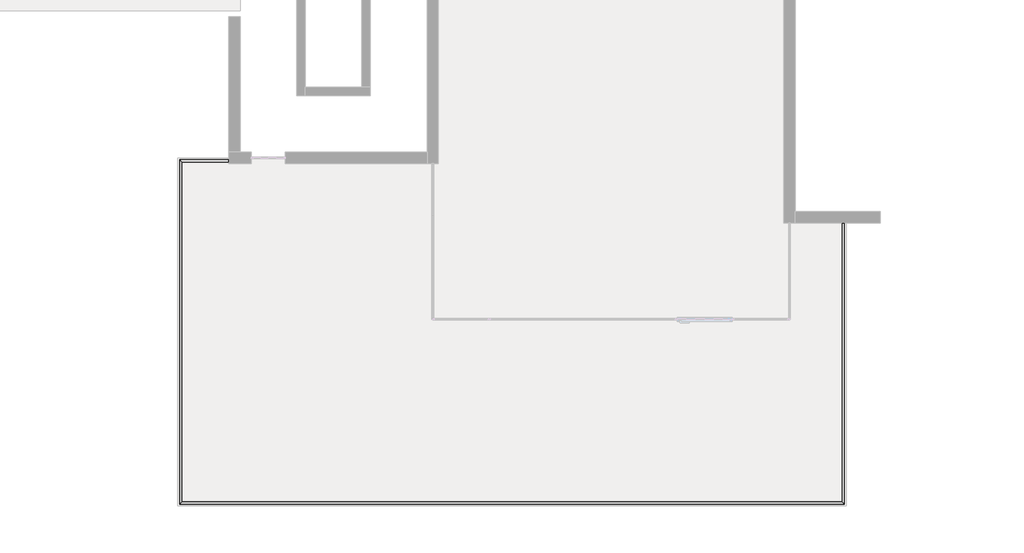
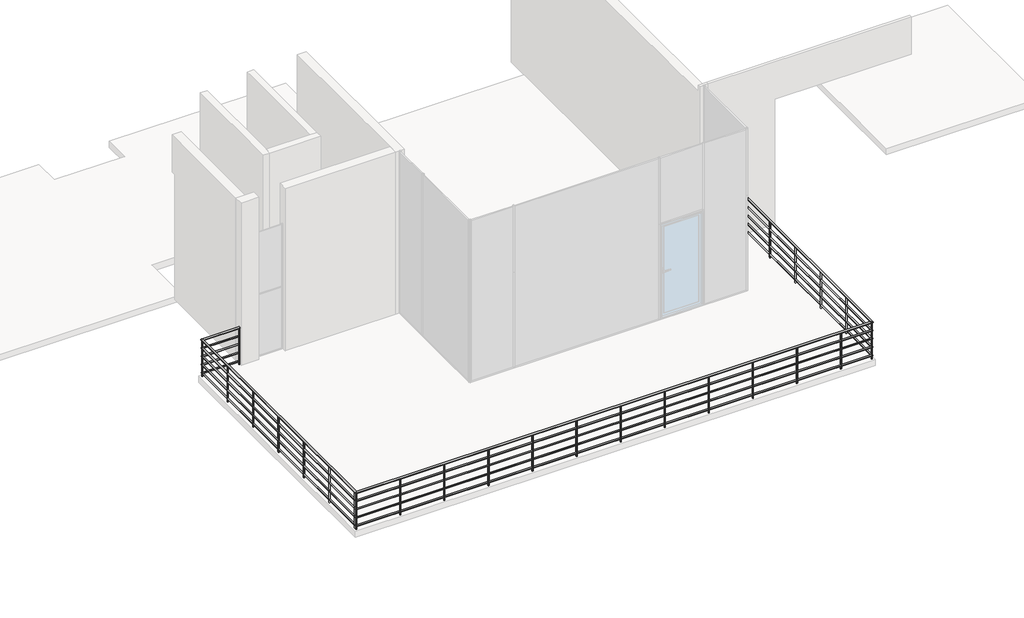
# One storey, part 3 of 4: 1 railing.
"""IFC4 building model written with IfcOpenShell, lengths in millimetres."""

import ifcopenshell
import ifcopenshell.guid

model = None  # the IFC model being written
_history = None  # IfcOwnerHistory: only IFC2X3 demands one
_inside = {}  # id of a spatial element -> (the spatial element, [elements in it])
_under = {}  # id of a project, library or spatial element -> (it, [spatial elements below it])
_declared = {}  # id of a project -> (the project, [libraries it declares])
_typed = {}  # id of a type object -> (the type object, [elements of that type])
_made_of = {}  # id of a material, layer set ... -> (it, [elements and type objects made of it])


def new_model(schema):
    """Start an empty IFC model of exactly this schema.

    Asked for "IFC4X3", IfcOpenShell would pick the latest addendum, in which some entities
    have other attributes; the version numbers below select the first issue.
    IFC2X3 requires an IfcOwnerHistory on every rooted entity: one is made here for all.
    """
    global model, _history
    if schema == "IFC4X3":
        model = ifcopenshell.file(schema_version=(4, 3, 0, 0))
    else:
        model = ifcopenshell.file(schema=schema)
    _inside.clear()
    _under.clear()
    _declared.clear()
    _typed.clear()
    _made_of.clear()
    _history = None
    if model.schema == "IFC2X3":
        org = make("IfcOrganization", Name="unknown")
        user = make(
            "IfcPersonAndOrganization",
            ThePerson=make("IfcPerson", FamilyName="unknown"),
            TheOrganization=org,
        )
        app = make(
            "IfcApplication",
            ApplicationDeveloper=org,
            Version="unknown",
            ApplicationFullName="unknown",
            ApplicationIdentifier="unknown",
        )
        _history = make(
            "IfcOwnerHistory",
            OwningUser=user,
            OwningApplication=app,
            ChangeAction="ADDED",
            CreationDate=0,
        )
    return model


def make(cls, **values):
    """One entity of the class cls with the attributes given. An attribute that is None is left unset."""
    return model.create_entity(
        cls, **{name: value for name, value in values.items() if value is not None}
    )


def rooted(cls, **values):
    """An entity with a GlobalId (a new one), such as an element, a storey or a relation."""
    return make(cls, GlobalId=ifcopenshell.guid.new(), OwnerHistory=_history, **values)


def si_unit(unit_type, name, prefix=None):
    """IfcSIUnit, for example si_unit("LENGTHUNIT", "METRE", prefix="MILLI")."""
    return make("IfcSIUnit", UnitType=unit_type, Prefix=prefix, Name=name)


def assignment(units):
    """IfcUnitAssignment: the units of a project."""
    return None if units is None else make("IfcUnitAssignment", Units=units)


def point(xyz):
    """IfcCartesianPoint."""
    return None if xyz is None else make("IfcCartesianPoint", Coordinates=xyz)


def direction(xyz):
    """IfcDirection."""
    return None if xyz is None else make("IfcDirection", DirectionRatios=xyz)


def frame(location, z_axis=None, x_axis=None):
    """IfcAxis2Placement3D, a coordinate frame: its origin and axes. An axis left out is left unset."""
    return make(
        "IfcAxis2Placement3D",
        Location=point(location),
        Axis=direction(z_axis),
        RefDirection=direction(x_axis),
    )


def frame_2d(location, x_axis=None):
    """IfcAxis2Placement2D, a coordinate frame in the plane: its origin and x axis."""
    return make(
        "IfcAxis2Placement2D", Location=point(location), RefDirection=direction(x_axis)
    )


def origin():
    """The frame at (0, 0, 0) with its axes left unset."""
    return frame((0.0, 0.0, 0.0))


def origin_with_axes():
    """The frame at (0, 0, 0) with the z axis (0, 0, 1) and the x axis (1, 0, 0) written out."""
    return frame((0.0, 0.0, 0.0), z_axis=(0.0, 0.0, 1.0), x_axis=(1.0, 0.0, 0.0))


def place(relative_to, where):
    """IfcLocalPlacement: puts the frame where relative to a parent placement (None: the world)."""
    return make(
        "IfcLocalPlacement", PlacementRelTo=relative_to, RelativePlacement=where
    )


def context(
    kind, dimensions, precision=None, world=None, true_north=None, identifier=None
):
    """IfcGeometricRepresentationContext, for example the 3D "Model" context."""
    return make(
        "IfcGeometricRepresentationContext",
        ContextIdentifier=identifier,
        ContextType=kind,
        CoordinateSpaceDimension=dimensions,
        Precision=precision,
        WorldCoordinateSystem=world,
        TrueNorth=true_north,
    )


def project(units=None, contexts=None):
    """IfcProject with its units and contexts."""
    return rooted(
        "IfcProject",
        Name="project",
        RepresentationContexts=contexts,
        UnitsInContext=assignment(units),
    )


def spatial(cls, under=None, at=None, **own):
    """A site, building, storey or space (cls), placed at a placement, below another one or the project."""
    s = rooted(cls, ObjectPlacement=at, **own)
    if under is not None:
        _under.setdefault(under.id(), (under, []))[1].append(s)
    return s


def circle_curve(where, radius):
    """IfcCircle in the frame where."""
    return make("IfcCircle", Position=where, Radius=radius)


def ellipse_curve(where, semi_axis1, semi_axis2):
    """IfcEllipse in the frame where."""
    return make(
        "IfcEllipse", Position=where, SemiAxis1=semi_axis1, SemiAxis2=semi_axis2
    )


def trimmed(basis, trim1, trim2, sense, master):
    """IfcTrimmedCurve: the piece of a basis curve between two trims."""
    return make(
        "IfcTrimmedCurve",
        BasisCurve=basis,
        Trim1=trim1,
        Trim2=trim2,
        SenseAgreement=sense,
        MasterRepresentation=master,
    )


def segment(curve, same_sense, transition):
    """IfcCompositeCurveSegment."""
    return make(
        "IfcCompositeCurveSegment",
        Transition=transition,
        SameSense=same_sense,
        ParentCurve=curve,
    )


def composite_curve(segments, self_intersect=None):
    """IfcCompositeCurve: segments joined end to end."""
    return make("IfcCompositeCurve", Segments=segments, SelfIntersect=self_intersect)


def outline(outer, holes=None, kind="AREA"):
    """IfcArbitraryClosedProfileDef: a profile drawn as a closed curve; with holes, ...WithVoids."""
    if holes is None:
        return make("IfcArbitraryClosedProfileDef", ProfileType=kind, OuterCurve=outer)
    return make(
        "IfcArbitraryProfileDefWithVoids",
        ProfileType=kind,
        OuterCurve=outer,
        InnerCurves=holes,
    )


def extrude(swept, where, along, depth):
    """IfcExtrudedAreaSolid: the profile swept, set in the frame where, extruded along a direction by depth."""
    return make(
        "IfcExtrudedAreaSolid",
        SweptArea=swept,
        Position=where,
        ExtrudedDirection=direction(along),
        Depth=depth,
    )


def shape(context_of_items, identifier, shape_type, items):
    """IfcShapeRepresentation: the items that make up one representation, for example the "Body"."""
    return make(
        "IfcShapeRepresentation",
        ContextOfItems=context_of_items,
        RepresentationIdentifier=identifier,
        RepresentationType=shape_type,
        Items=items,
    )


def made_of(thing, what):
    """Note that an element or type object is made of a material, layer set ...; save() writes the relation."""
    if what is not None:
        _made_of.setdefault(what.id(), (what, []))[1].append(thing)
    return thing


def element(
    cls,
    number,
    at=None,
    inside=None,
    cuts=None,
    type_object=None,
    material=None,
    context=None,
    identifier="Body",
    shape_type=None,
    held_by="IfcProductDefinitionShape",
    body=None,
    shapes=None,
    **own,
):
    """One element of the class cls, such as IfcWall. Its Tag is "e" and its number.

    at: its placement. inside: the storey or other place that contains it. cuts: it is an
    opening in that element (IfcRelVoidsElement). A single representation is given by context,
    identifier, shape_type and body (its items); several are given by shapes. held_by: the class
    of the entity that holds the representations. save() writes the other relations.
    """
    e = rooted(cls, Tag="e%d" % number, ObjectPlacement=at, **own)
    if body is not None:
        shapes = [shape(context, identifier, shape_type, body)]
    if shapes is not None:
        e.Representation = make(held_by, Representations=shapes)
    if inside is not None:
        _inside.setdefault(inside.id(), (inside, []))[1].append(e)
    if cuts is not None:
        rooted(
            "IfcRelVoidsElement", RelatingBuildingElement=cuts, RelatedOpeningElement=e
        )
    if type_object is not None:
        _typed.setdefault(type_object.id(), (type_object, []))[1].append(e)
    return made_of(e, material)


def aggregate(whole, parts):
    """IfcRelAggregates: a whole, such as a stair, and the parts it consists of."""
    return rooted("IfcRelAggregates", RelatingObject=whole, RelatedObjects=parts)


def save(model, path):
    """Write the relations noted so far, then the file.

    IfcRelAggregates (storeys below a building ...), IfcRelContainedInSpatialStructure (elements
    in a storey), IfcRelDefinesByType, IfcRelAssociatesMaterial and IfcRelDeclares: one each for
    every whole, place, type object, material and project.
    """
    for whole, parts in _under.values():
        aggregate(whole, parts)
    for where, things in _inside.values():
        rooted(
            "IfcRelContainedInSpatialStructure",
            RelatedElements=things,
            RelatingStructure=where,
        )
    for kind, things in _typed.values():
        rooted("IfcRelDefinesByType", RelatedObjects=things, RelatingType=kind)
    for what, things in _made_of.values():
        rooted("IfcRelAssociatesMaterial", RelatedObjects=things, RelatingMaterial=what)
    for by, libraries in _declared.values():
        rooted("IfcRelDeclares", RelatingContext=by, RelatedDefinitions=libraries)
    model.write(path)


def plane_surface(at):
    """IfcPlane: the flat surface through the origin of the frame at, square to its z axis."""
    return make("IfcPlane", Position=at)


def cylinder_surface(at, radius):
    """IfcCylindricalSurface: all points at the distance radius from the z axis of the frame at."""
    return make("IfcCylindricalSurface", Position=at, Radius=radius)


def advanced_brep(points, edges, surfaces, faces):
    """IfcAdvancedBrep: a solid bounded by faces that lie on surfaces and meet in shared edges.

    An edge is (start, end): straight between two places in points (the first is 0);
    or (start, end, curve); or (start, end, curve, False) where it runs against its curve.
    A face is (place in surfaces, loops), or (place, loops, False) where it looks against
    its surface's normal. A loop lists edges by number (the first is 1), with a minus sign
    where the edge is run from its end to its start. The first loop is the outer one.
    """
    corners = [point(p) for p in points]
    vertices = [make("IfcVertexPoint", VertexGeometry=c) for c in corners]
    made = []
    for start, end, *more in edges:
        made.append(
            make(
                "IfcEdgeCurve",
                EdgeStart=vertices[start],
                EdgeEnd=vertices[end],
                EdgeGeometry=more[0] if more else make("IfcPolyline", Points=[corners[start], corners[end]]),
                SameSense=more[1] if len(more) > 1 else True,
            )
        )
    hull = []
    for where, loops, *sense in faces:
        bounds = []
        for j, loop in enumerate(loops):
            ring = [make("IfcOrientedEdge", EdgeElement=made[abs(k) - 1], Orientation=k > 0) for k in loop]
            bounds.append(
                make(
                    "IfcFaceOuterBound" if j == 0 else "IfcFaceBound",
                    Bound=make("IfcEdgeLoop", EdgeList=ring),
                    Orientation=True,
                )
            )
        hull.append(make("IfcAdvancedFace", Bounds=bounds, FaceSurface=surfaces[where], SameSense=sense[0] if sense else True))
    return make("IfcAdvancedBrep", Outer=make("IfcClosedShell", CfsFaces=hull))


model = new_model("IFC4")

# Units and contexts
model_context = context("Model", 3, world=origin())
ifc_project = project(units=[si_unit("LENGTHUNIT", "METRE", prefix="MILLI")], contexts=[model_context])

# Site, building, storey
site = spatial("IfcSite", under=ifc_project)
building = spatial("IfcBuilding", under=site)
storey = spatial("IfcBuildingStorey", under=building, Name="首层", Elevation=0.0)

# Railing
placement = place(None, origin())
element("IfcRailing", 1, ObjectType="900mm 圆管", at=placement, inside=storey, context=model_context, shape_type="SolidModel", body=[
    advanced_brep(
    [(-2390.9475695, -7001.4172231, 880.0), (-2390.9475695, -7041.4172231, 880.0), (-3260.9475695, -7001.4172231, 880.0), (-3220.9475695, -7041.4172231, 880.0), (-3260.9475695, -13091.4172231, 880.0), (-3220.9475695, -13051.4172231, 880.0), (8479.0524305, -13091.4172231, 880.0), (8439.0524305, -13051.4172231, 880.0), (8479.0524305, -8121.4172231, 880.0), (8439.0524305, -8121.4172231, 880.0)],
    [
        (0, 1, circle_curve(frame((-2390.9475695, -7021.4172231, 880.0), z_axis=(1.0, 0.0, 0.0), x_axis=(0.0, -1.0, 0.0)), 20.0)),
        (1, 0, circle_curve(frame((-2390.9475695, -7021.4172231, 880.0), z_axis=(1.0, 0.0, 0.0), x_axis=(0.0, -1.0, 0.0)), 20.0)),
        (0, 2),
        (2, 3, ellipse_curve(frame((-3240.9475695, -7021.4172231, 880.0), z_axis=(0.7071067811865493, 0.7071067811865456, 0.0), x_axis=(0.7071067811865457, -0.7071067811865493, 0.0)), 28.2842712, 20.0)),
        (3, 1),
        (3, 2, ellipse_curve(frame((-3240.9475695, -7021.4172231, 880.0), z_axis=(0.7071067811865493, 0.7071067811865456, 0.0), x_axis=(0.7071067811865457, -0.7071067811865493, 0.0)), 28.2842712, 20.0)),
        (2, 4),
        (4, 5, ellipse_curve(frame((-3240.9475695, -13071.4172231, 880.0), z_axis=(-0.7071067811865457, 0.7071067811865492, 0.0), x_axis=(0.7071067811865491, 0.7071067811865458, 0.0)), 28.2842712, 20.0)),
        (5, 3),
        (5, 4, ellipse_curve(frame((-3240.9475695, -13071.4172231, 880.0), z_axis=(-0.7071067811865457, 0.7071067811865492, 0.0), x_axis=(0.7071067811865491, 0.7071067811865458, 0.0)), 28.2842712, 20.0)),
        (4, 6),
        (6, 7, ellipse_curve(frame((8459.0524305, -13071.4172231, 880.0), z_axis=(-0.7071067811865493, -0.7071067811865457, 0.0), x_axis=(-0.7071067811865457, 0.7071067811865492, 0.0)), 28.2842712, 20.0)),
        (7, 5),
        (7, 6, ellipse_curve(frame((8459.0524305, -13071.4172231, 880.0), z_axis=(-0.7071067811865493, -0.7071067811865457, 0.0), x_axis=(-0.7071067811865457, 0.7071067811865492, 0.0)), 28.2842712, 20.0)),
        (8, 9, circle_curve(frame((8459.0524305, -8121.4172231, 880.0), z_axis=(0.0, 1.0, 0.0), x_axis=(-1.0, 0.0, 0.0)), 20.0)),
        (9, 8, circle_curve(frame((8459.0524305, -8121.4172231, 880.0), z_axis=(0.0, 1.0, 0.0), x_axis=(-1.0, 0.0, 0.0)), 20.0)),
        (6, 8),
        (9, 7),
    ],
    [
        plane_surface(frame((-2390.9475695, -7021.4172231, 900.0), z_axis=(1.0, 0.0, 0.0), x_axis=(0.0, -1.0, 0.0))),
        cylinder_surface(frame((-2390.9475695, -7021.4172231, 880.0), z_axis=(1.0, 0.0, 0.0), x_axis=(0.0, -1.0, 0.0)), 20.0),
        cylinder_surface(frame((-3240.9475695, -7021.4172231, 880.0), z_axis=(0.0, 1.0, 0.0), x_axis=(1.0, 0.0, 0.0)), 20.0),
        cylinder_surface(frame((-3240.9475695, -13071.4172231, 880.0), z_axis=(-1.0, 0.0, 0.0), x_axis=(0.0, 1.0, 0.0)), 20.0),
        plane_surface(frame((8459.0524305, -8121.4172231, 900.0), z_axis=(0.0, 1.0, 0.0), x_axis=(0.0, 0.0, 1.0))),
        cylinder_surface(frame((8459.0524305, -13071.4172231, 880.0), z_axis=(0.0, -1.0, 0.0), x_axis=(-1.0, 0.0, 0.0)), 20.0),
    ],
    [
        (0, [[1, 2]]),
        (1, [[-1, 3, 4, 5]]),
        (1, [[-2, -5, 6, -3]]),
        (2, [[-4, 7, 8, 9]]),
        (2, [[-6, -9, 10, -7]]),
        (3, [[-8, 11, 12, 13]]),
        (3, [[-10, -13, 14, -11]]),
        (4, [[15, 16]]),
        (5, [[-12, 17, -16, 18]]),
        (5, [[-14, -18, -15, -17]]),
    ],
),
    advanced_brep(
    [(-2390.9475695, -7036.4172231, 685.0), (-2390.9475695, -7006.4172231, 685.0), (-3225.9475695, -7036.4172231, 685.0), (-3255.9475695, -7006.4172231, 685.0), (-3225.9475695, -13056.4172231, 685.0), (-3255.9475695, -13086.4172231, 685.0), (8444.0524305, -13056.4172231, 685.0), (8474.0524305, -13086.4172231, 685.0), (8444.0524305, -8121.4172231, 685.0), (8474.0524305, -8121.4172231, 685.0)],
    [
        (0, 1, circle_curve(frame((-2390.9475695, -7021.4172231, 685.0), z_axis=(1.0, 0.0, 0.0), x_axis=(0.0, 1.0, 0.0)), 15.0)),
        (1, 0, circle_curve(frame((-2390.9475695, -7021.4172231, 685.0), z_axis=(1.0, 0.0, 0.0), x_axis=(0.0, 1.0, 0.0)), 15.0)),
        (0, 2),
        (2, 3, ellipse_curve(frame((-3240.9475695, -7021.4172231, 685.0), z_axis=(0.7071067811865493, 0.7071067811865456, 0.0), x_axis=(0.7071067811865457, -0.7071067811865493, 0.0)), 21.2132034, 15.0)),
        (3, 1),
        (3, 2, ellipse_curve(frame((-3240.9475695, -7021.4172231, 685.0), z_axis=(0.7071067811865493, 0.7071067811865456, 0.0), x_axis=(0.7071067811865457, -0.7071067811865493, 0.0)), 21.2132034, 15.0)),
        (2, 4),
        (4, 5, ellipse_curve(frame((-3240.9475695, -13071.4172231, 685.0), z_axis=(-0.7071067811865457, 0.7071067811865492, 0.0), x_axis=(0.7071067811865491, 0.7071067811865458, 0.0)), 21.2132034, 15.0)),
        (5, 3),
        (5, 4, ellipse_curve(frame((-3240.9475695, -13071.4172231, 685.0), z_axis=(-0.7071067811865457, 0.7071067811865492, 0.0), x_axis=(0.7071067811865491, 0.7071067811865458, 0.0)), 21.2132034, 15.0)),
        (4, 6),
        (6, 7, ellipse_curve(frame((8459.0524305, -13071.4172231, 685.0), z_axis=(-0.7071067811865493, -0.7071067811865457, 0.0), x_axis=(-0.7071067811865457, 0.7071067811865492, 0.0)), 21.2132034, 15.0)),
        (7, 5),
        (7, 6, ellipse_curve(frame((8459.0524305, -13071.4172231, 685.0), z_axis=(-0.7071067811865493, -0.7071067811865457, 0.0), x_axis=(-0.7071067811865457, 0.7071067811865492, 0.0)), 21.2132034, 15.0)),
        (8, 9, circle_curve(frame((8459.0524305, -8121.4172231, 685.0), z_axis=(0.0, 1.0, 0.0), x_axis=(1.0, 0.0, 0.0)), 15.0)),
        (9, 8, circle_curve(frame((8459.0524305, -8121.4172231, 685.0), z_axis=(0.0, 1.0, 0.0), x_axis=(1.0, 0.0, 0.0)), 15.0)),
        (6, 8),
        (9, 7),
    ],
    [
        plane_surface(frame((-2390.9475695, -7021.4172231, 700.0), z_axis=(1.0, 0.0, 0.0), x_axis=(0.0, -1.0, 0.0))),
        cylinder_surface(frame((-2390.9475695, -7021.4172231, 685.0), z_axis=(1.0, 0.0, 0.0), x_axis=(0.0, 1.0, 0.0)), 15.0),
        cylinder_surface(frame((-3240.9475695, -7021.4172231, 685.0), z_axis=(0.0, 1.0, 0.0), x_axis=(-1.0, 0.0, 0.0)), 15.0),
        cylinder_surface(frame((-3240.9475695, -13071.4172231, 685.0), z_axis=(-1.0, 0.0, 0.0), x_axis=(0.0, -1.0, 0.0)), 15.0),
        plane_surface(frame((8459.0524305, -8121.4172231, 700.0), z_axis=(0.0, 1.0, 0.0), x_axis=(0.0, 0.0, 1.0))),
        cylinder_surface(frame((8459.0524305, -13071.4172231, 685.0), z_axis=(0.0, -1.0, 0.0), x_axis=(1.0, 0.0, 0.0)), 15.0),
    ],
    [
        (0, [[1, 2]]),
        (1, [[-1, 3, 4, 5]]),
        (1, [[-2, -5, 6, -3]]),
        (2, [[-4, 7, 8, 9]]),
        (2, [[-6, -9, 10, -7]]),
        (3, [[-8, 11, 12, 13]]),
        (3, [[-10, -13, 14, -11]]),
        (4, [[15, 16]]),
        (5, [[-12, 17, -16, 18]]),
        (5, [[-14, -18, -15, -17]]),
    ],
),
    advanced_brep(
    [(-2390.9475695, -7036.4172231, 485.0), (-2390.9475695, -7006.4172231, 485.0), (-3225.9475695, -7036.4172231, 485.0), (-3255.9475695, -7006.4172231, 485.0), (-3225.9475695, -13056.4172231, 485.0), (-3255.9475695, -13086.4172231, 485.0), (8444.0524305, -13056.4172231, 485.0), (8474.0524305, -13086.4172231, 485.0), (8444.0524305, -8121.4172231, 485.0), (8474.0524305, -8121.4172231, 485.0)],
    [
        (0, 1, circle_curve(frame((-2390.9475695, -7021.4172231, 485.0), z_axis=(1.0, 0.0, 0.0), x_axis=(0.0, 1.0, 0.0)), 15.0)),
        (1, 0, circle_curve(frame((-2390.9475695, -7021.4172231, 485.0), z_axis=(1.0, 0.0, 0.0), x_axis=(0.0, 1.0, 0.0)), 15.0)),
        (0, 2),
        (2, 3, ellipse_curve(frame((-3240.9475695, -7021.4172231, 485.0), z_axis=(0.7071067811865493, 0.7071067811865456, 0.0), x_axis=(0.7071067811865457, -0.7071067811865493, 0.0)), 21.2132034, 15.0)),
        (3, 1),
        (3, 2, ellipse_curve(frame((-3240.9475695, -7021.4172231, 485.0), z_axis=(0.7071067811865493, 0.7071067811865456, 0.0), x_axis=(0.7071067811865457, -0.7071067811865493, 0.0)), 21.2132034, 15.0)),
        (2, 4),
        (4, 5, ellipse_curve(frame((-3240.9475695, -13071.4172231, 485.0), z_axis=(-0.7071067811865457, 0.7071067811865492, 0.0), x_axis=(0.7071067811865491, 0.7071067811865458, 0.0)), 21.2132034, 15.0)),
        (5, 3),
        (5, 4, ellipse_curve(frame((-3240.9475695, -13071.4172231, 485.0), z_axis=(-0.7071067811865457, 0.7071067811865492, 0.0), x_axis=(0.7071067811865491, 0.7071067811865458, 0.0)), 21.2132034, 15.0)),
        (4, 6),
        (6, 7, ellipse_curve(frame((8459.0524305, -13071.4172231, 485.0), z_axis=(-0.7071067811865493, -0.7071067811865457, 0.0), x_axis=(-0.7071067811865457, 0.7071067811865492, 0.0)), 21.2132034, 15.0)),
        (7, 5),
        (7, 6, ellipse_curve(frame((8459.0524305, -13071.4172231, 485.0), z_axis=(-0.7071067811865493, -0.7071067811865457, 0.0), x_axis=(-0.7071067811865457, 0.7071067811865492, 0.0)), 21.2132034, 15.0)),
        (8, 9, circle_curve(frame((8459.0524305, -8121.4172231, 485.0), z_axis=(0.0, 1.0, 0.0), x_axis=(1.0, 0.0, 0.0)), 15.0)),
        (9, 8, circle_curve(frame((8459.0524305, -8121.4172231, 485.0), z_axis=(0.0, 1.0, 0.0), x_axis=(1.0, 0.0, 0.0)), 15.0)),
        (6, 8),
        (9, 7),
    ],
    [
        plane_surface(frame((-2390.9475695, -7021.4172231, 500.0), z_axis=(1.0, 0.0, 0.0), x_axis=(0.0, -1.0, 0.0))),
        cylinder_surface(frame((-2390.9475695, -7021.4172231, 485.0), z_axis=(1.0, 0.0, 0.0), x_axis=(0.0, 1.0, 0.0)), 15.0),
        cylinder_surface(frame((-3240.9475695, -7021.4172231, 485.0), z_axis=(0.0, 1.0, 0.0), x_axis=(-1.0, 0.0, 0.0)), 15.0),
        cylinder_surface(frame((-3240.9475695, -13071.4172231, 485.0), z_axis=(-1.0, 0.0, 0.0), x_axis=(0.0, -1.0, 0.0)), 15.0),
        plane_surface(frame((8459.0524305, -8121.4172231, 500.0), z_axis=(0.0, 1.0, 0.0), x_axis=(0.0, 0.0, 1.0))),
        cylinder_surface(frame((8459.0524305, -13071.4172231, 485.0), z_axis=(0.0, -1.0, 0.0), x_axis=(1.0, 0.0, 0.0)), 15.0),
    ],
    [
        (0, [[1, 2]]),
        (1, [[-1, 3, 4, 5]]),
        (1, [[-2, -5, 6, -3]]),
        (2, [[-4, 7, 8, 9]]),
        (2, [[-6, -9, 10, -7]]),
        (3, [[-8, 11, 12, 13]]),
        (3, [[-10, -13, 14, -11]]),
        (4, [[15, 16]]),
        (5, [[-12, 17, -16, 18]]),
        (5, [[-14, -18, -15, -17]]),
    ],
),
    advanced_brep(
    [(-2390.9475695, -7036.4172231, 285.0), (-2390.9475695, -7006.4172231, 285.0), (-3225.9475695, -7036.4172231, 285.0), (-3255.9475695, -7006.4172231, 285.0), (-3225.9475695, -13056.4172231, 285.0), (-3255.9475695, -13086.4172231, 285.0), (8444.0524305, -13056.4172231, 285.0), (8474.0524305, -13086.4172231, 285.0), (8444.0524305, -8121.4172231, 285.0), (8474.0524305, -8121.4172231, 285.0)],
    [
        (0, 1, circle_curve(frame((-2390.9475695, -7021.4172231, 285.0), z_axis=(1.0, 0.0, 0.0), x_axis=(0.0, 1.0, 0.0)), 15.0)),
        (1, 0, circle_curve(frame((-2390.9475695, -7021.4172231, 285.0), z_axis=(1.0, 0.0, 0.0), x_axis=(0.0, 1.0, 0.0)), 15.0)),
        (0, 2),
        (2, 3, ellipse_curve(frame((-3240.9475695, -7021.4172231, 285.0), z_axis=(0.7071067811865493, 0.7071067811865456, 0.0), x_axis=(0.7071067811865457, -0.7071067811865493, 0.0)), 21.2132034, 15.0)),
        (3, 1),
        (3, 2, ellipse_curve(frame((-3240.9475695, -7021.4172231, 285.0), z_axis=(0.7071067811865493, 0.7071067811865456, 0.0), x_axis=(0.7071067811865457, -0.7071067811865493, 0.0)), 21.2132034, 15.0)),
        (2, 4),
        (4, 5, ellipse_curve(frame((-3240.9475695, -13071.4172231, 285.0), z_axis=(-0.7071067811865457, 0.7071067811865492, 0.0), x_axis=(0.7071067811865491, 0.7071067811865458, 0.0)), 21.2132034, 15.0)),
        (5, 3),
        (5, 4, ellipse_curve(frame((-3240.9475695, -13071.4172231, 285.0), z_axis=(-0.7071067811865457, 0.7071067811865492, 0.0), x_axis=(0.7071067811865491, 0.7071067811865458, 0.0)), 21.2132034, 15.0)),
        (4, 6),
        (6, 7, ellipse_curve(frame((8459.0524305, -13071.4172231, 285.0), z_axis=(-0.7071067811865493, -0.7071067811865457, 0.0), x_axis=(-0.7071067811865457, 0.7071067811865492, 0.0)), 21.2132034, 15.0)),
        (7, 5),
        (7, 6, ellipse_curve(frame((8459.0524305, -13071.4172231, 285.0), z_axis=(-0.7071067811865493, -0.7071067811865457, 0.0), x_axis=(-0.7071067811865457, 0.7071067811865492, 0.0)), 21.2132034, 15.0)),
        (8, 9, circle_curve(frame((8459.0524305, -8121.4172231, 285.0), z_axis=(0.0, 1.0, 0.0), x_axis=(1.0, 0.0, 0.0)), 15.0)),
        (9, 8, circle_curve(frame((8459.0524305, -8121.4172231, 285.0), z_axis=(0.0, 1.0, 0.0), x_axis=(1.0, 0.0, 0.0)), 15.0)),
        (6, 8),
        (9, 7),
    ],
    [
        plane_surface(frame((-2390.9475695, -7021.4172231, 300.0), z_axis=(1.0, 0.0, 0.0), x_axis=(0.0, -1.0, 0.0))),
        cylinder_surface(frame((-2390.9475695, -7021.4172231, 285.0), z_axis=(1.0, 0.0, 0.0), x_axis=(0.0, 1.0, 0.0)), 15.0),
        cylinder_surface(frame((-3240.9475695, -7021.4172231, 285.0), z_axis=(0.0, 1.0, 0.0), x_axis=(-1.0, 0.0, 0.0)), 15.0),
        cylinder_surface(frame((-3240.9475695, -13071.4172231, 285.0), z_axis=(-1.0, 0.0, 0.0), x_axis=(0.0, -1.0, 0.0)), 15.0),
        plane_surface(frame((8459.0524305, -8121.4172231, 300.0), z_axis=(0.0, 1.0, 0.0), x_axis=(0.0, 0.0, 1.0))),
        cylinder_surface(frame((8459.0524305, -13071.4172231, 285.0), z_axis=(0.0, -1.0, 0.0), x_axis=(1.0, 0.0, 0.0)), 15.0),
    ],
    [
        (0, [[1, 2]]),
        (1, [[-1, 3, 4, 5]]),
        (1, [[-2, -5, 6, -3]]),
        (2, [[-4, 7, 8, 9]]),
        (2, [[-6, -9, 10, -7]]),
        (3, [[-8, 11, 12, 13]]),
        (3, [[-10, -13, 14, -11]]),
        (4, [[15, 16]]),
        (5, [[-12, 17, -16, 18]]),
        (5, [[-14, -18, -15, -17]]),
    ],
),
    advanced_brep(
    [(-2390.9475695, -7036.4172231, 85.0), (-2390.9475695, -7006.4172231, 85.0), (-3225.9475695, -7036.4172231, 85.0), (-3255.9475695, -7006.4172231, 85.0), (-3225.9475695, -13056.4172231, 85.0), (-3255.9475695, -13086.4172231, 85.0), (8444.0524305, -13056.4172231, 85.0), (8474.0524305, -13086.4172231, 85.0), (8444.0524305, -8121.4172231, 85.0), (8474.0524305, -8121.4172231, 85.0)],
    [
        (0, 1, circle_curve(frame((-2390.9475695, -7021.4172231, 85.0), z_axis=(1.0, 0.0, 0.0), x_axis=(0.0, 1.0, 0.0)), 15.0)),
        (1, 0, circle_curve(frame((-2390.9475695, -7021.4172231, 85.0), z_axis=(1.0, 0.0, 0.0), x_axis=(0.0, 1.0, 0.0)), 15.0)),
        (0, 2),
        (2, 3, ellipse_curve(frame((-3240.9475695, -7021.4172231, 85.0), z_axis=(0.7071067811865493, 0.7071067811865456, 0.0), x_axis=(0.7071067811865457, -0.7071067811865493, 0.0)), 21.2132034, 15.0)),
        (3, 1),
        (3, 2, ellipse_curve(frame((-3240.9475695, -7021.4172231, 85.0), z_axis=(0.7071067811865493, 0.7071067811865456, 0.0), x_axis=(0.7071067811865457, -0.7071067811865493, 0.0)), 21.2132034, 15.0)),
        (2, 4),
        (4, 5, ellipse_curve(frame((-3240.9475695, -13071.4172231, 85.0), z_axis=(-0.7071067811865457, 0.7071067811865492, 0.0), x_axis=(0.7071067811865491, 0.7071067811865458, 0.0)), 21.2132034, 15.0)),
        (5, 3),
        (5, 4, ellipse_curve(frame((-3240.9475695, -13071.4172231, 85.0), z_axis=(-0.7071067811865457, 0.7071067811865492, 0.0), x_axis=(0.7071067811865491, 0.7071067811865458, 0.0)), 21.2132034, 15.0)),
        (4, 6),
        (6, 7, ellipse_curve(frame((8459.0524305, -13071.4172231, 85.0), z_axis=(-0.7071067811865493, -0.7071067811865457, 0.0), x_axis=(-0.7071067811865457, 0.7071067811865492, 0.0)), 21.2132034, 15.0)),
        (7, 5),
        (7, 6, ellipse_curve(frame((8459.0524305, -13071.4172231, 85.0), z_axis=(-0.7071067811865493, -0.7071067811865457, 0.0), x_axis=(-0.7071067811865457, 0.7071067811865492, 0.0)), 21.2132034, 15.0)),
        (8, 9, circle_curve(frame((8459.0524305, -8121.4172231, 85.0), z_axis=(0.0, 1.0, 0.0), x_axis=(1.0, 0.0, 0.0)), 15.0)),
        (9, 8, circle_curve(frame((8459.0524305, -8121.4172231, 85.0), z_axis=(0.0, 1.0, 0.0), x_axis=(1.0, 0.0, 0.0)), 15.0)),
        (6, 8),
        (9, 7),
    ],
    [
        plane_surface(frame((-2390.9475695, -7021.4172231, 100.0), z_axis=(1.0, 0.0, 0.0), x_axis=(0.0, -1.0, 0.0))),
        cylinder_surface(frame((-2390.9475695, -7021.4172231, 85.0), z_axis=(1.0, 0.0, 0.0), x_axis=(0.0, 1.0, 0.0)), 15.0),
        cylinder_surface(frame((-3240.9475695, -7021.4172231, 85.0), z_axis=(0.0, 1.0, 0.0), x_axis=(-1.0, 0.0, 0.0)), 15.0),
        cylinder_surface(frame((-3240.9475695, -13071.4172231, 85.0), z_axis=(-1.0, 0.0, 0.0), x_axis=(0.0, -1.0, 0.0)), 15.0),
        plane_surface(frame((8459.0524305, -8121.4172231, 100.0), z_axis=(0.0, 1.0, 0.0), x_axis=(0.0, 0.0, 1.0))),
        cylinder_surface(frame((8459.0524305, -13071.4172231, 85.0), z_axis=(0.0, -1.0, 0.0), x_axis=(1.0, 0.0, 0.0)), 15.0),
    ],
    [
        (0, [[1, 2]]),
        (1, [[-1, 3, 4, 5]]),
        (1, [[-2, -5, 6, -3]]),
        (2, [[-4, 7, 8, 9]]),
        (2, [[-6, -9, 10, -7]]),
        (3, [[-8, 11, 12, 13]]),
        (3, [[-10, -13, 14, -11]]),
        (4, [[15, 16]]),
        (5, [[-12, 17, -16, 18]]),
        (5, [[-14, -18, -15, -17]]),
    ],
),
    extrude(outline(composite_curve([segment(trimmed(circle_curve(frame_2d((8459.0524305, -9071.4172231)), 12.5), [point((8446.5524305, -9071.4172231))], [point((8471.5524305, -9071.4172231))], False, "CARTESIAN"), True, "CONTINUOUS"), segment(trimmed(circle_curve(frame_2d((8459.0524305, -9071.4172231)), 12.5), [point((8471.5524305, -9071.4172231))], [point((8446.5524305, -9071.4172231))], False, "CARTESIAN"), True, "CONTINUOUS")], self_intersect=False)), origin_with_axes(), (0.0, 0.0, 1.0), 860.0),
    extrude(outline(composite_curve([segment(trimmed(circle_curve(frame_2d((8459.0524305, -10071.4172231)), 12.5), [point((8446.5524305, -10071.4172231))], [point((8471.5524305, -10071.4172231))], False, "CARTESIAN"), True, "CONTINUOUS"), segment(trimmed(circle_curve(frame_2d((8459.0524305, -10071.4172231)), 12.5), [point((8471.5524305, -10071.4172231))], [point((8446.5524305, -10071.4172231))], False, "CARTESIAN"), True, "CONTINUOUS")], self_intersect=False)), origin_with_axes(), (0.0, 0.0, 1.0), 860.0),
    extrude(outline(composite_curve([segment(trimmed(circle_curve(frame_2d((8459.0524305, -11071.4172231)), 12.5), [point((8446.5524305, -11071.4172231))], [point((8471.5524305, -11071.4172231))], False, "CARTESIAN"), True, "CONTINUOUS"), segment(trimmed(circle_curve(frame_2d((8459.0524305, -11071.4172231)), 12.5), [point((8471.5524305, -11071.4172231))], [point((8446.5524305, -11071.4172231))], False, "CARTESIAN"), True, "CONTINUOUS")], self_intersect=False)), origin_with_axes(), (0.0, 0.0, 1.0), 860.0),
    extrude(outline(composite_curve([segment(trimmed(circle_curve(frame_2d((8459.0524305, -12071.4172231)), 12.5), [point((8446.5524305, -12071.4172231))], [point((8471.5524305, -12071.4172231))], False, "CARTESIAN"), True, "CONTINUOUS"), segment(trimmed(circle_curve(frame_2d((8459.0524305, -12071.4172231)), 12.5), [point((8471.5524305, -12071.4172231))], [point((8446.5524305, -12071.4172231))], False, "CARTESIAN"), True, "CONTINUOUS")], self_intersect=False)), origin_with_axes(), (0.0, 0.0, 1.0), 860.0),
    extrude(outline(composite_curve([segment(trimmed(circle_curve(frame_2d((7759.0524305, -13071.4172231)), 12.5), [point((7759.0524305, -13058.9172231))], [point((7759.0524305, -13083.9172231))], False, "CARTESIAN"), True, "CONTINUOUS"), segment(trimmed(circle_curve(frame_2d((7759.0524305, -13071.4172231)), 12.5), [point((7759.0524305, -13083.9172231))], [point((7759.0524305, -13058.9172231))], False, "CARTESIAN"), True, "CONTINUOUS")], self_intersect=False)), origin_with_axes(), (0.0, 0.0, 1.0), 860.0),
    extrude(outline(composite_curve([segment(trimmed(circle_curve(frame_2d((6759.0524305, -13071.4172231)), 12.5), [point((6759.0524305, -13058.9172231))], [point((6759.0524305, -13083.9172231))], False, "CARTESIAN"), True, "CONTINUOUS"), segment(trimmed(circle_curve(frame_2d((6759.0524305, -13071.4172231)), 12.5), [point((6759.0524305, -13083.9172231))], [point((6759.0524305, -13058.9172231))], False, "CARTESIAN"), True, "CONTINUOUS")], self_intersect=False)), origin_with_axes(), (0.0, 0.0, 1.0), 860.0),
    extrude(outline(composite_curve([segment(trimmed(circle_curve(frame_2d((5759.0524305, -13071.4172231)), 12.5), [point((5759.0524305, -13058.9172231))], [point((5759.0524305, -13083.9172231))], False, "CARTESIAN"), True, "CONTINUOUS"), segment(trimmed(circle_curve(frame_2d((5759.0524305, -13071.4172231)), 12.5), [point((5759.0524305, -13083.9172231))], [point((5759.0524305, -13058.9172231))], False, "CARTESIAN"), True, "CONTINUOUS")], self_intersect=False)), origin_with_axes(), (0.0, 0.0, 1.0), 860.0),
    extrude(outline(composite_curve([segment(trimmed(circle_curve(frame_2d((4759.0524305, -13071.4172231)), 12.5), [point((4759.0524305, -13058.9172231))], [point((4759.0524305, -13083.9172231))], False, "CARTESIAN"), True, "CONTINUOUS"), segment(trimmed(circle_curve(frame_2d((4759.0524305, -13071.4172231)), 12.5), [point((4759.0524305, -13083.9172231))], [point((4759.0524305, -13058.9172231))], False, "CARTESIAN"), True, "CONTINUOUS")], self_intersect=False)), origin_with_axes(), (0.0, 0.0, 1.0), 860.0),
    extrude(outline(composite_curve([segment(trimmed(circle_curve(frame_2d((3759.0524305, -13071.4172231)), 12.5), [point((3759.0524305, -13058.9172231))], [point((3759.0524305, -13083.9172231))], False, "CARTESIAN"), True, "CONTINUOUS"), segment(trimmed(circle_curve(frame_2d((3759.0524305, -13071.4172231)), 12.5), [point((3759.0524305, -13083.9172231))], [point((3759.0524305, -13058.9172231))], False, "CARTESIAN"), True, "CONTINUOUS")], self_intersect=False)), origin_with_axes(), (0.0, 0.0, 1.0), 860.0),
    extrude(outline(composite_curve([segment(trimmed(circle_curve(frame_2d((2759.0524305, -13071.4172231)), 12.5), [point((2759.0524305, -13058.9172231))], [point((2759.0524305, -13083.9172231))], False, "CARTESIAN"), True, "CONTINUOUS"), segment(trimmed(circle_curve(frame_2d((2759.0524305, -13071.4172231)), 12.5), [point((2759.0524305, -13083.9172231))], [point((2759.0524305, -13058.9172231))], False, "CARTESIAN"), True, "CONTINUOUS")], self_intersect=False)), origin_with_axes(), (0.0, 0.0, 1.0), 860.0),
    extrude(outline(composite_curve([segment(trimmed(circle_curve(frame_2d((1759.0524305, -13071.4172231)), 12.5), [point((1759.0524305, -13058.9172231))], [point((1759.0524305, -13083.9172231))], False, "CARTESIAN"), True, "CONTINUOUS"), segment(trimmed(circle_curve(frame_2d((1759.0524305, -13071.4172231)), 12.5), [point((1759.0524305, -13083.9172231))], [point((1759.0524305, -13058.9172231))], False, "CARTESIAN"), True, "CONTINUOUS")], self_intersect=False)), origin_with_axes(), (0.0, 0.0, 1.0), 860.0),
    extrude(outline(composite_curve([segment(trimmed(circle_curve(frame_2d((759.0524305, -13071.4172231)), 12.5), [point((759.0524305, -13058.9172231))], [point((759.0524305, -13083.9172231))], False, "CARTESIAN"), True, "CONTINUOUS"), segment(trimmed(circle_curve(frame_2d((759.0524305, -13071.4172231)), 12.5), [point((759.0524305, -13083.9172231))], [point((759.0524305, -13058.9172231))], False, "CARTESIAN"), True, "CONTINUOUS")], self_intersect=False)), origin_with_axes(), (0.0, 0.0, 1.0), 860.0),
    extrude(outline(composite_curve([segment(trimmed(circle_curve(frame_2d((-240.9475695, -13071.4172231)), 12.5), [point((-240.9475695, -13058.9172231))], [point((-240.9475695, -13083.9172231))], False, "CARTESIAN"), True, "CONTINUOUS"), segment(trimmed(circle_curve(frame_2d((-240.9475695, -13071.4172231)), 12.5), [point((-240.9475695, -13083.9172231))], [point((-240.9475695, -13058.9172231))], False, "CARTESIAN"), True, "CONTINUOUS")], self_intersect=False)), origin_with_axes(), (0.0, 0.0, 1.0), 860.0),
    extrude(outline(composite_curve([segment(trimmed(circle_curve(frame_2d((-1240.9475695, -13071.4172231)), 12.5), [point((-1240.9475695, -13058.9172231))], [point((-1240.9475695, -13083.9172231))], False, "CARTESIAN"), True, "CONTINUOUS"), segment(trimmed(circle_curve(frame_2d((-1240.9475695, -13071.4172231)), 12.5), [point((-1240.9475695, -13083.9172231))], [point((-1240.9475695, -13058.9172231))], False, "CARTESIAN"), True, "CONTINUOUS")], self_intersect=False)), origin_with_axes(), (0.0, 0.0, 1.0), 860.0),
    extrude(outline(composite_curve([segment(trimmed(circle_curve(frame_2d((-2240.9475695, -13071.4172231)), 12.5), [point((-2240.9475695, -13058.9172231))], [point((-2240.9475695, -13083.9172231))], False, "CARTESIAN"), True, "CONTINUOUS"), segment(trimmed(circle_curve(frame_2d((-2240.9475695, -13071.4172231)), 12.5), [point((-2240.9475695, -13083.9172231))], [point((-2240.9475695, -13058.9172231))], False, "CARTESIAN"), True, "CONTINUOUS")], self_intersect=False)), origin_with_axes(), (0.0, 0.0, 1.0), 860.0),
    extrude(outline(composite_curve([segment(trimmed(circle_curve(frame_2d((-3240.9475695, -13021.4172231)), 12.5), [point((-3228.4475695, -13021.4172231))], [point((-3253.4475695, -13021.4172231))], False, "CARTESIAN"), True, "CONTINUOUS"), segment(trimmed(circle_curve(frame_2d((-3240.9475695, -13021.4172231)), 12.5), [point((-3253.4475695, -13021.4172231))], [point((-3228.4475695, -13021.4172231))], False, "CARTESIAN"), True, "CONTINUOUS")], self_intersect=False)), origin_with_axes(), (0.0, 0.0, 1.0), 860.0),
    extrude(outline(composite_curve([segment(trimmed(circle_curve(frame_2d((-3240.9475695, -12021.4172231)), 12.5), [point((-3228.4475695, -12021.4172231))], [point((-3253.4475695, -12021.4172231))], False, "CARTESIAN"), True, "CONTINUOUS"), segment(trimmed(circle_curve(frame_2d((-3240.9475695, -12021.4172231)), 12.5), [point((-3253.4475695, -12021.4172231))], [point((-3228.4475695, -12021.4172231))], False, "CARTESIAN"), True, "CONTINUOUS")], self_intersect=False)), origin_with_axes(), (0.0, 0.0, 1.0), 860.0),
    extrude(outline(composite_curve([segment(trimmed(circle_curve(frame_2d((-3240.9475695, -11021.4172231)), 12.5), [point((-3228.4475695, -11021.4172231))], [point((-3253.4475695, -11021.4172231))], False, "CARTESIAN"), True, "CONTINUOUS"), segment(trimmed(circle_curve(frame_2d((-3240.9475695, -11021.4172231)), 12.5), [point((-3253.4475695, -11021.4172231))], [point((-3228.4475695, -11021.4172231))], False, "CARTESIAN"), True, "CONTINUOUS")], self_intersect=False)), origin_with_axes(), (0.0, 0.0, 1.0), 860.0),
    extrude(outline(composite_curve([segment(trimmed(circle_curve(frame_2d((-3240.9475695, -10021.4172231)), 12.5), [point((-3228.4475695, -10021.4172231))], [point((-3253.4475695, -10021.4172231))], False, "CARTESIAN"), True, "CONTINUOUS"), segment(trimmed(circle_curve(frame_2d((-3240.9475695, -10021.4172231)), 12.5), [point((-3253.4475695, -10021.4172231))], [point((-3228.4475695, -10021.4172231))], False, "CARTESIAN"), True, "CONTINUOUS")], self_intersect=False)), origin_with_axes(), (0.0, 0.0, 1.0), 860.0),
    extrude(outline(composite_curve([segment(trimmed(circle_curve(frame_2d((-3240.9475695, -9021.4172231)), 12.5), [point((-3228.4475695, -9021.4172231))], [point((-3253.4475695, -9021.4172231))], False, "CARTESIAN"), True, "CONTINUOUS"), segment(trimmed(circle_curve(frame_2d((-3240.9475695, -9021.4172231)), 12.5), [point((-3253.4475695, -9021.4172231))], [point((-3228.4475695, -9021.4172231))], False, "CARTESIAN"), True, "CONTINUOUS")], self_intersect=False)), origin_with_axes(), (0.0, 0.0, 1.0), 860.0),
    extrude(outline(composite_curve([segment(trimmed(circle_curve(frame_2d((-3240.9475695, -8021.4172231)), 12.5), [point((-3228.4475695, -8021.4172231))], [point((-3253.4475695, -8021.4172231))], False, "CARTESIAN"), True, "CONTINUOUS"), segment(trimmed(circle_curve(frame_2d((-3240.9475695, -8021.4172231)), 12.5), [point((-3253.4475695, -8021.4172231))], [point((-3228.4475695, -8021.4172231))], False, "CARTESIAN"), True, "CONTINUOUS")], self_intersect=False)), origin_with_axes(), (0.0, 0.0, 1.0), 860.0),
    extrude(outline(composite_curve([segment(trimmed(circle_curve(frame_2d((8459.0524305, -13071.4172231)), 12.5), [point((8459.0524305, -13058.9172231))], [point((8459.0524305, -13083.9172231))], False, "CARTESIAN"), True, "CONTINUOUS"), segment(trimmed(circle_curve(frame_2d((8459.0524305, -13071.4172231)), 12.5), [point((8459.0524305, -13083.9172231))], [point((8459.0524305, -13058.9172231))], False, "CARTESIAN"), True, "CONTINUOUS")], self_intersect=False)), origin_with_axes(), (0.0, 0.0, 1.0), 860.0),
    extrude(outline(composite_curve([segment(trimmed(circle_curve(frame_2d((-3240.9475695, -13071.4172231)), 12.5), [point((-3228.4475695, -13071.4172231))], [point((-3253.4475695, -13071.4172231))], False, "CARTESIAN"), True, "CONTINUOUS"), segment(trimmed(circle_curve(frame_2d((-3240.9475695, -13071.4172231)), 12.5), [point((-3253.4475695, -13071.4172231))], [point((-3228.4475695, -13071.4172231))], False, "CARTESIAN"), True, "CONTINUOUS")], self_intersect=False)), origin_with_axes(), (0.0, 0.0, 1.0), 860.0),
    extrude(outline(composite_curve([segment(trimmed(circle_curve(frame_2d((-3240.9475695, -7021.4172231)), 12.5), [point((-3240.9475695, -7033.9172231))], [point((-3240.9475695, -7008.9172231))], False, "CARTESIAN"), True, "CONTINUOUS"), segment(trimmed(circle_curve(frame_2d((-3240.9475695, -7021.4172231)), 12.5), [point((-3240.9475695, -7008.9172231))], [point((-3240.9475695, -7033.9172231))], False, "CARTESIAN"), True, "CONTINUOUS")], self_intersect=False)), origin_with_axes(), (0.0, 0.0, 1.0), 860.0),
    extrude(outline(composite_curve([segment(trimmed(circle_curve(frame_2d((8459.0524305, -8133.9172231)), 12.5), [point((8446.5524305, -8133.9172231))], [point((8471.5524305, -8133.9172231))], False, "CARTESIAN"), True, "CONTINUOUS"), segment(trimmed(circle_curve(frame_2d((8459.0524305, -8133.9172231)), 12.5), [point((8471.5524305, -8133.9172231))], [point((8446.5524305, -8133.9172231))], False, "CARTESIAN"), True, "CONTINUOUS")], self_intersect=False)), origin_with_axes(), (0.0, 0.0, 1.0), 860.0),
    extrude(outline(composite_curve([segment(trimmed(circle_curve(frame_2d((-2403.4475695, -7021.4172231)), 12.5), [point((-2403.4475695, -7033.9172231))], [point((-2403.4475695, -7008.9172231))], False, "CARTESIAN"), True, "CONTINUOUS"), segment(trimmed(circle_curve(frame_2d((-2403.4475695, -7021.4172231)), 12.5), [point((-2403.4475695, -7008.9172231))], [point((-2403.4475695, -7033.9172231))], False, "CARTESIAN"), True, "CONTINUOUS")], self_intersect=False)), origin_with_axes(), (0.0, 0.0, 1.0), 860.0),
])

save(model, "model.ifc")
